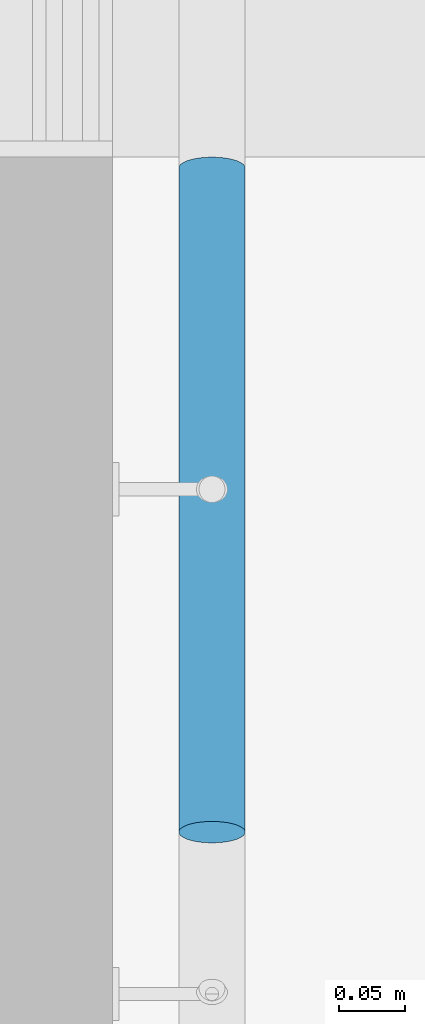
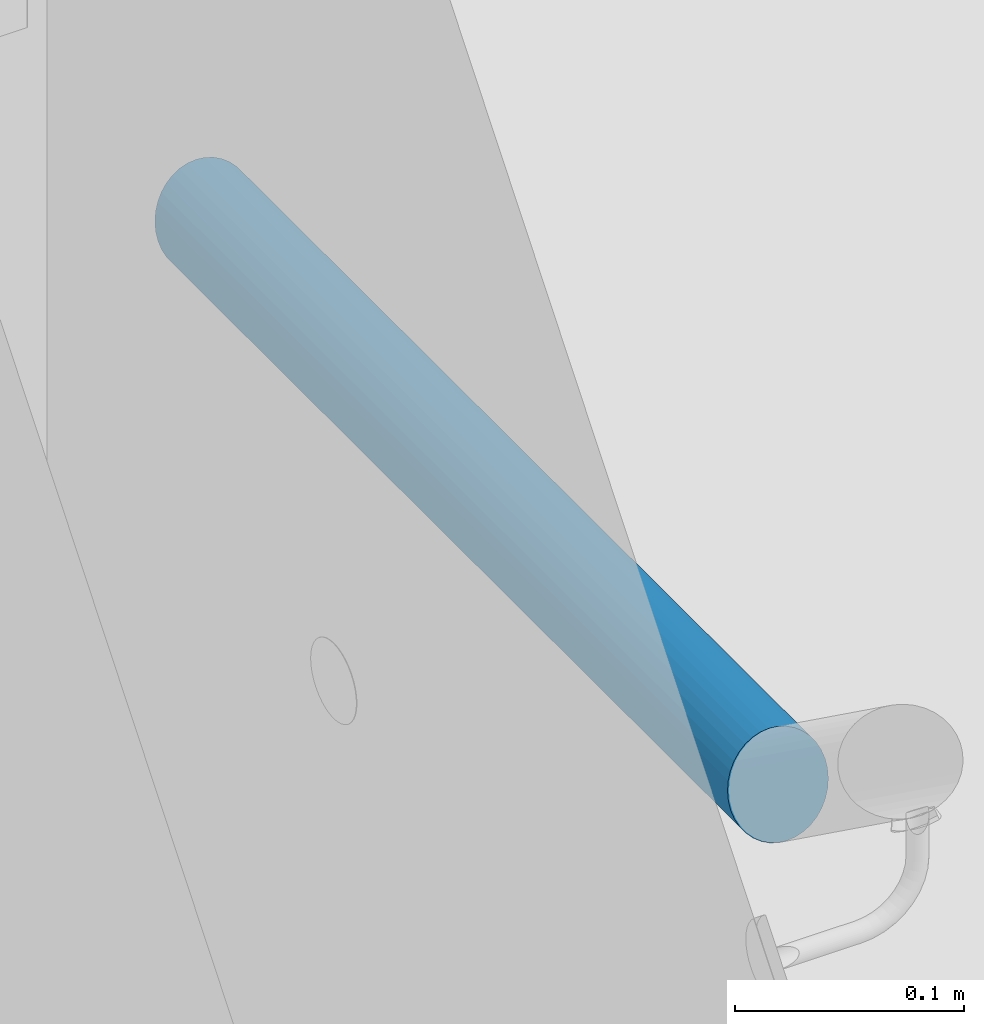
# One storey, part 139 of 347: 1 building element part, 2 elements without a shape of their own.
"""IFC2X3 building model written with IfcOpenShell, lengths in millimetres."""

from ifc_helpers import new_model, entity, si_unit, converted_unit, derived_unit, money_unit, direction, frame, origin_with_axes, place, context, subcontext, project, spatial, faceted_brep, material, type_object, element, aggregate, save


model = new_model("IFC2X3")

# Units and contexts
model_context = context("Model", 3, precision=0.01, world=origin_with_axes(), true_north=direction((0.0, 1.0)))
plan_context = context("Plan", 3, precision=0.01, world=origin_with_axes(), true_north=direction((0.0, 1.0)))
body_context = subcontext(model_context, "Body", "Model", "MODEL_VIEW")
ifc_project = project(units=[si_unit("LENGTHUNIT", "METRE", prefix="MILLI"), si_unit("AREAUNIT", "SQUARE_METRE"), si_unit("VOLUMEUNIT", "CUBIC_METRE"), converted_unit("PLANEANGLEUNIT", "DEGREE", entity("IfcPlaneAngleMeasure", 0.0174532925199), si_unit("PLANEANGLEUNIT", "RADIAN"), dimensions=[0, 0, 0, 0, 0, 0, 0]), money_unit("EUR"), converted_unit("TIMEUNIT", "Year", entity("IfcTimeMeasure", 31556926.0), si_unit("TIMEUNIT", "SECOND"), dimensions=[0, 0, 1, 0, 0, 0, 0]), si_unit("MASSUNIT", "GRAM", prefix="KILO"), si_unit("THERMODYNAMICTEMPERATUREUNIT", "DEGREE_CELSIUS"), si_unit("LUMINOUSINTENSITYUNIT", "LUMEN"), si_unit("ENERGYUNIT", "JOULE", prefix="MEGA"), derived_unit("THERMALCONDUCTANCEUNIT", [(si_unit("POWERUNIT", "WATT"), 1), (si_unit("LENGTHUNIT", "METRE"), -1), (si_unit("THERMODYNAMICTEMPERATUREUNIT", "KELVIN"), -1)]), derived_unit("SPECIFICHEATCAPACITYUNIT", [(si_unit("ENERGYUNIT", "JOULE"), 1), (si_unit("MASSUNIT", "GRAM", prefix="KILO"), -1), (si_unit("THERMODYNAMICTEMPERATUREUNIT", "KELVIN"), -1)]), derived_unit("MASSDENSITYUNIT", [(si_unit("MASSUNIT", "GRAM", prefix="KILO"), 1), (si_unit("VOLUMEUNIT", "CUBIC_METRE"), -1)])], contexts=[model_context, plan_context])

# Site, building, storey
site_placement = place(None, origin_with_axes())
site = spatial("IfcSite", under=ifc_project, at=site_placement, Name="Site", CompositionType="ELEMENT")
building_placement = place(site_placement, origin_with_axes())
building = spatial("IfcBuilding", under=site, at=building_placement, Name="Naam gebouw", CompositionType="ELEMENT")
storey_placement = place(building_placement, origin_with_axes())
storey = spatial("IfcBuildingStorey", under=building, at=storey_placement, Name="begane grond", CompositionType="ELEMENT", Elevation=0.0)

# Railing, member, building element part
railing_type = type_object("IfcRailingType", Name="Railing Type", PredefinedType="NOTDEFINED")
railing_placement = place(storey_placement, frame((38575.0, 36499.9999823, 72.0000018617), z_axis=(0.0, 0.0, 1.0), x_axis=(-1.0, 0.0, 0.0)))
railing = element("IfcRailing", 1, at=railing_placement, inside=storey, type_object=railing_type, Name="_Reling-x", PredefinedType="NOTDEFINED")
member_type = type_object("IfcMemberType", Name="IfcMember", PredefinedType="USERDEFINED")
member_placement = place(railing_placement, frame((-75.0, 1949.99997509, 2212.0982987), z_axis=(0.0, 0.0, 1.0), x_axis=(-1.0, 0.0, 0.0)))
member = element("IfcMember", 2, at=member_placement, type_object=member_type, Name="_Handregel-x")
aggregate(railing, [member])
ifc_material = material(Name="Hout AFW")
building_element_part_placement = place(member_placement, origin_with_axes())
building_element_part = element("IfcBuildingElementPart", 3, at=building_element_part_placement, material=ifc_material, Name="Hout AFW", context=body_context, shape_type="Brep", body=[
    faceted_brep([(25.0, 241.936356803, 30.9016994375), (24.6201938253, 243.336598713, 35.2429038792), (24.6201938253, -256.663458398, 35.2429038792), (25.0, -258.063700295, 30.9016994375), (24.6201938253, 240.536114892, 26.5604949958), (23.4923155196, 239.178418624, 22.3511958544), (21.6506350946, 237.904520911, 18.4016994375), (19.151111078, 236.753128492, 14.8320091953), (16.0696902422, 235.759225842, 11.7505883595), (12.5, 234.953012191, 9.25106434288), (8.55050358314, 234.358983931, 7.40938391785), (4.34120444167, 233.995190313, 6.28150561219), (0.0, 233.872685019, 5.90169943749), (-4.34120444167, 233.995190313, 6.28150561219), (-8.55050358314, 234.358983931, 7.40938391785), (-12.5, 234.953012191, 9.25106434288), (-16.0696902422, 235.759225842, 11.7505883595), (-19.151111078, 236.753128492, 14.8320091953), (-21.6506350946, 237.904520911, 18.4016994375), (-23.4923155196, 239.178418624, 22.3511958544), (-24.6201938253, 240.536114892, 26.5604949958), (-25.0, 241.936356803, 30.9016994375), (-24.6201938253, 243.336598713, 35.2429038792), (-23.4923155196, 244.694294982, 39.4522030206), (-21.6506350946, 245.968192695, 43.4016994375), (-19.151111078, 247.119585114, 46.9713896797), (-16.0696902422, 248.113487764, 50.0528105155), (-12.5, 248.919701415, 52.5523345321), (-8.55050358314, 249.513729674, 54.3940149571), (-4.34120444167, 249.877523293, 55.5218932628), (0.0, 250.000028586, 55.9016994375), (4.34120444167, 249.877523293, 55.5218932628), (8.55050358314, 249.513729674, 54.3940149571), (12.5, 248.919701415, 52.5523345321), (16.0696902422, 248.113487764, 50.0528105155), (19.151111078, 247.119585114, 46.9713896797), (21.6506350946, 245.968192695, 43.4016994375), (23.4923155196, 244.694294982, 39.4522030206), (23.4923155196, -255.305762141, 39.4522030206), (21.6506350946, -254.031864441, 43.4016994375), (19.151111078, -252.880472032, 46.9713896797), (16.0696902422, -251.886569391, 50.0528105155), (12.5, -251.080355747, 52.5523345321), (8.55050358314, -250.486327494, 54.3940149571), (4.34120444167, -250.122533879, 55.5218932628), (0.0, -250.000028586, 55.9016994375), (-4.34120444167, -250.122533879, 55.5218932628), (-8.55050358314, -250.486327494, 54.3940149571), (-12.5, -251.080355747, 52.5523345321), (-16.0696902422, -251.886569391, 50.0528105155), (-19.151111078, -252.880472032, 46.9713896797), (-21.6506350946, -254.031864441, 43.4016994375), (-23.4923155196, -255.305762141, 39.4522030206), (-24.6201938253, -256.663458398, 35.2429038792), (-25.0, -258.063700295, 30.9016994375), (-24.6201938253, -259.463942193, 26.5604949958), (-23.4923155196, -260.821638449, 22.3511958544), (-21.6506350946, -262.095536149, 18.4016994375), (-19.151111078, -263.246928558, 14.8320091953), (-16.0696902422, -264.240831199, 11.7505883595), (-12.5, -265.047044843, 9.25106434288), (-8.55050358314, -265.641073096, 7.40938391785), (-4.34120444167, -266.004866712, 6.28150561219), (0.0, -266.127372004, 5.90169943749), (4.34120444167, -266.004866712, 6.28150561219), (8.55050358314, -265.641073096, 7.40938391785), (12.5, -265.047044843, 9.25106434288), (16.0696902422, -264.240831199, 11.7505883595), (19.151111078, -263.246928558, 14.8320091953), (21.6506350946, -262.095536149, 18.4016994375), (23.4923155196, -260.821638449, 22.3511958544), (24.6201938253, -259.463942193, 26.5604949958)], [[[0, 1, 2, 3]], [[0, 4, 5, 6, 7, 8, 9, 10, 11, 12, 13, 14, 15, 16, 17, 18, 19, 20, 21, 22, 23, 24, 25, 26, 27, 28, 29, 30, 31, 32, 33, 34, 35, 36, 37, 1]], [[1, 37, 38, 2]], [[3, 2, 38, 39, 40, 41, 42, 43, 44, 45, 46, 47, 48, 49, 50, 51, 52, 53, 54, 55, 56, 57, 58, 59, 60, 61, 62, 63, 64, 65, 66, 67, 68, 69, 70, 71]], [[4, 0, 3, 71]], [[5, 4, 71, 70]], [[6, 5, 70, 69]], [[7, 6, 69, 68]], [[8, 7, 68, 67]], [[9, 8, 67, 66]], [[10, 9, 66, 65]], [[11, 10, 65, 64]], [[12, 11, 64, 63]], [[13, 12, 63, 62]], [[14, 13, 62, 61]], [[15, 14, 61, 60]], [[16, 15, 60, 59]], [[17, 16, 59, 58]], [[18, 17, 58, 57]], [[19, 18, 57, 56]], [[20, 19, 56, 55]], [[21, 20, 55, 54]], [[22, 21, 54, 53]], [[23, 22, 53, 52]], [[24, 23, 52, 51]], [[25, 24, 51, 50]], [[26, 25, 50, 49]], [[27, 26, 49, 48]], [[28, 27, 48, 47]], [[29, 28, 47, 46]], [[30, 29, 46, 45]], [[31, 30, 45, 44]], [[32, 31, 44, 43]], [[33, 32, 43, 42]], [[34, 33, 42, 41]], [[35, 34, 41, 40]], [[36, 35, 40, 39]], [[37, 36, 39, 38]]]),
])
aggregate(member, [building_element_part])

save(model, "model.ifc")
